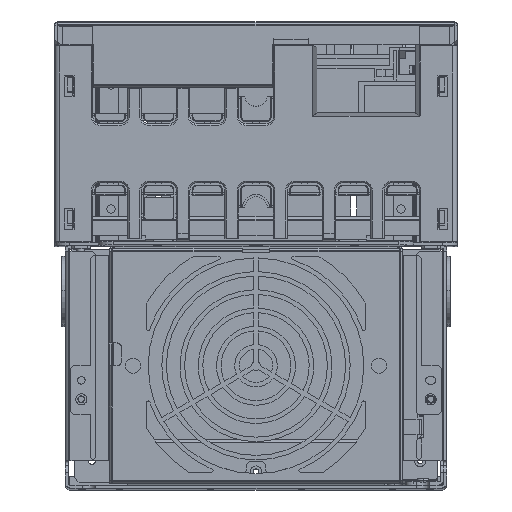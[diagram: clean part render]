
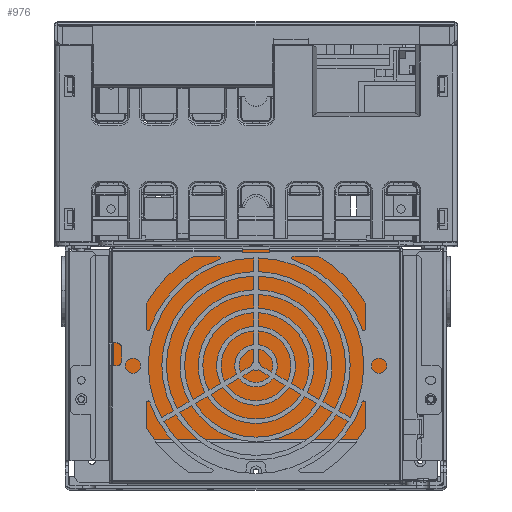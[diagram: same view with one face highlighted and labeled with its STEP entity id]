
A CAD part, top view. The second image highlights one B-rep face of the part: STEP entity #976.
In plain terms, the highlighted planar face has unit normal (0, 0, 1).
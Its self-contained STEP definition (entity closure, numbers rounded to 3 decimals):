
#976=ADVANCED_FACE('',(#5203),#5204,.F.);
#5203=FACE_OUTER_BOUND('',#12494,.T.);
#5204=PLANE('',#12495);
#12494=EDGE_LOOP('',(#29822,#29823,#29824,#29825,#29826,#29827,#29828,#29829,#29830,#29831));
#12495=AXIS2_PLACEMENT_3D('',#29832,#29833,#29834);
#29822=ORIENTED_EDGE('',*,*,#54670,.F.);
#29823=ORIENTED_EDGE('',*,*,#54674,.F.);
#29824=ORIENTED_EDGE('',*,*,#54656,.F.);
#29825=ORIENTED_EDGE('',*,*,#54679,.T.);
#29826=ORIENTED_EDGE('',*,*,#54683,.F.);
#29827=ORIENTED_EDGE('',*,*,#54686,.F.);
#29828=ORIENTED_EDGE('',*,*,#54695,.T.);
#29829=ORIENTED_EDGE('',*,*,#54696,.T.);
#29830=ORIENTED_EDGE('',*,*,#54697,.T.);
#29831=ORIENTED_EDGE('',*,*,#54698,.T.);
#29832=CARTESIAN_POINT('',(96.0,5.0,-732.5));
#29833=DIRECTION('',(0.0,0.0,-1.0));
#29834=DIRECTION('',(0.0,-1.0,0.0));
#54656=EDGE_CURVE('',#65136,#65138,#65139,.T.);
#54670=EDGE_CURVE('',#65160,#65162,#65163,.T.);
#54674=EDGE_CURVE('',#65138,#65160,#65168,.T.);
#54679=EDGE_CURVE('',#65136,#65174,#65176,.T.);
#54683=EDGE_CURVE('',#65180,#65174,#65182,.T.);
#54686=EDGE_CURVE('',#65184,#65180,#65186,.T.);
#54695=EDGE_CURVE('',#65184,#65197,#65198,.T.);
#54696=EDGE_CURVE('',#65197,#65199,#65200,.T.);
#54697=EDGE_CURVE('',#65199,#65201,#65202,.T.);
#54698=EDGE_CURVE('',#65201,#65162,#65203,.T.);
#65136=VERTEX_POINT('',#81523);
#65138=VERTEX_POINT('',#81525);
#65139=LINE('',#81526,#81527);
#65160=VERTEX_POINT('',#81558);
#65162=VERTEX_POINT('',#81561);
#65163=LINE('',#81562,#81563);
#65168=LINE('',#81569,#81570);
#65174=VERTEX_POINT('',#81578);
#65176=LINE('',#81581,#81582);
#65180=VERTEX_POINT('',#81587);
#65182=LINE('',#81589,#81590);
#65184=VERTEX_POINT('',#81593);
#65186=LINE('',#81595,#81596);
#65197=VERTEX_POINT('',#81609);
#65198=LINE('',#81610,#81611);
#65199=VERTEX_POINT('',#81612);
#65200=LINE('',#81613,#81614);
#65201=VERTEX_POINT('',#81615);
#65202=LINE('',#81616,#81617);
#65203=LINE('',#81618,#81619);
#81523=CARTESIAN_POINT('',(93.5,33.5,-732.5));
#81525=CARTESIAN_POINT('',(-93.5,33.5,-732.5));
#81526=CARTESIAN_POINT('',(93.5,33.5,-732.5));
#81527=VECTOR('',#104740,187.0);
#81558=CARTESIAN_POINT('',(-93.5,34.5,-732.5));
#81561=CARTESIAN_POINT('',(-94.0,34.5,-732.5));
#81562=CARTESIAN_POINT('',(-93.5,34.5,-732.5));
#81563=VECTOR('',#104758,0.5);
#81569=CARTESIAN_POINT('',(-93.5,33.5,-732.5));
#81570=VECTOR('',#104766,1.0);
#81578=CARTESIAN_POINT('',(93.5,34.5,-732.5));
#81581=CARTESIAN_POINT('',(93.5,33.5,-732.5));
#81582=VECTOR('',#104773,1.0);
#81587=CARTESIAN_POINT('',(94.0,34.5,-732.5));
#81589=CARTESIAN_POINT('',(94.0,34.5,-732.5));
#81590=VECTOR('',#104781,0.5);
#81593=CARTESIAN_POINT('',(94.0,158.0,-732.5));
#81595=CARTESIAN_POINT('',(94.0,158.0,-732.5));
#81596=VECTOR('',#104786,123.5);
#81609=CARTESIAN_POINT('',(92.0,158.0,-732.5));
#81610=CARTESIAN_POINT('',(94.0,158.0,-732.5));
#81611=VECTOR('',#104807,2.0);
#81612=CARTESIAN_POINT('',(-92.0,158.0,-732.5));
#81613=CARTESIAN_POINT('',(92.0,158.0,-732.5));
#81614=VECTOR('',#104808,184.0);
#81615=CARTESIAN_POINT('',(-94.0,158.0,-732.5));
#81616=CARTESIAN_POINT('',(-92.0,158.0,-732.5));
#81617=VECTOR('',#104809,2.0);
#81618=CARTESIAN_POINT('',(-94.0,158.0,-732.5));
#81619=VECTOR('',#104810,123.5);
#104740=DIRECTION('',(-1.0,0.0,0.0));
#104758=DIRECTION('',(-1.0,0.0,0.0));
#104766=DIRECTION('',(0.,1.0,0.0));
#104773=DIRECTION('',(0.,1.0,0.0));
#104781=DIRECTION('',(-1.0,0.,0.0));
#104786=DIRECTION('',(0.0,-1.0,0.0));
#104807=DIRECTION('',(-1.0,0.0,0.0));
#104808=DIRECTION('',(-1.0,0.0,0.0));
#104809=DIRECTION('',(-1.0,0.0,0.0));
#104810=DIRECTION('',(0.0,-1.0,0.0));
